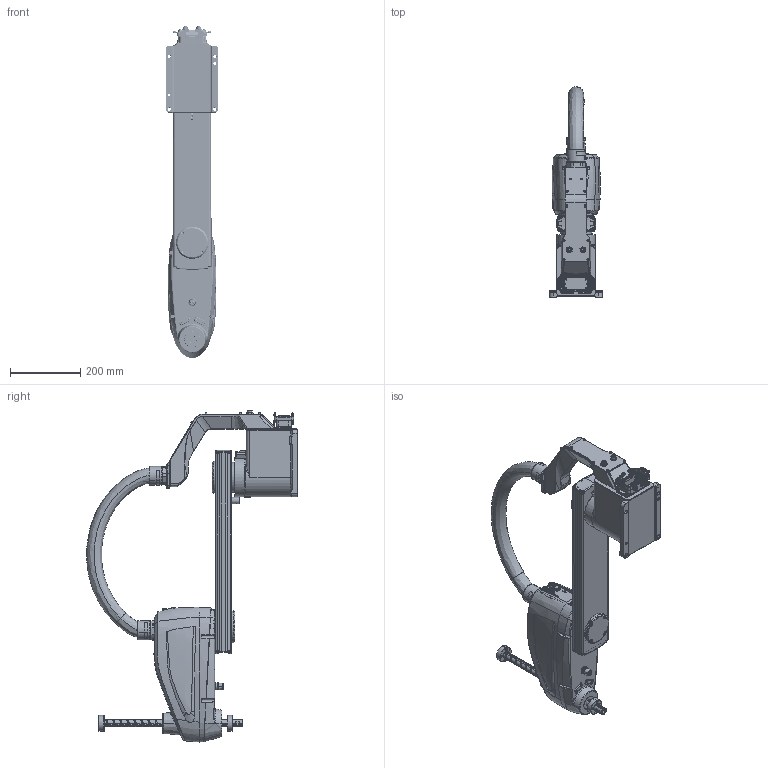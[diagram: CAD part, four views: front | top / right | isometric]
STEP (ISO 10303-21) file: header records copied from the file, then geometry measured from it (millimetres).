
FILE_DESCRIPTION (( 'STEP AP214' ), '1' );
FILE_NAME ('MB07SC-700.STEP', '2026-01-17T01:55:36', ( '' ), ( '' ), 'SwSTEP 2.0', 'SolidWorks 2020', '' );
FILE_SCHEMA (( 'AUTOMOTIVE_DESIGN' ));
Length unit declared in the file: millimetre
Products named in the file (5): MB07SC-440000 J4郪璃; MB07SC-700; MB07SC-630000 J3郪璃; MB07SC-710000 J1軞傖; MB07SC-720000 J2軞傖
Assembly tree (4 placements, depth 2):
  MB07SC-700
    MB07SC-710000 J1軞傖
    MB07SC-720000 J2軞傖
    MB07SC-630000 J3郪璃
    MB07SC-440000 J4郪璃
Bounding box: 150 x 599.57 x 944.57 mm (x, y, z)
Volume: 14662583.6 mm3; surface area: 1000734.9 mm2
Topology: 4 solids, 34 shells, 4846 faces, 13005 edges, 8353 vertices
Faces by surface type: cylinder 1747, plane 1697, bspline 1027, cone 371, torus 4
Entity records: 257737 total; most frequent: CARTESIAN_POINT 125114, ORIENTED_EDGE 25540, DIRECTION 19176, EDGE_CURVE 12770, VERTEX_POINT 8353, AXIS2_PLACEMENT_3D 7060, EDGE_LOOP 5381, VECTOR 5056
